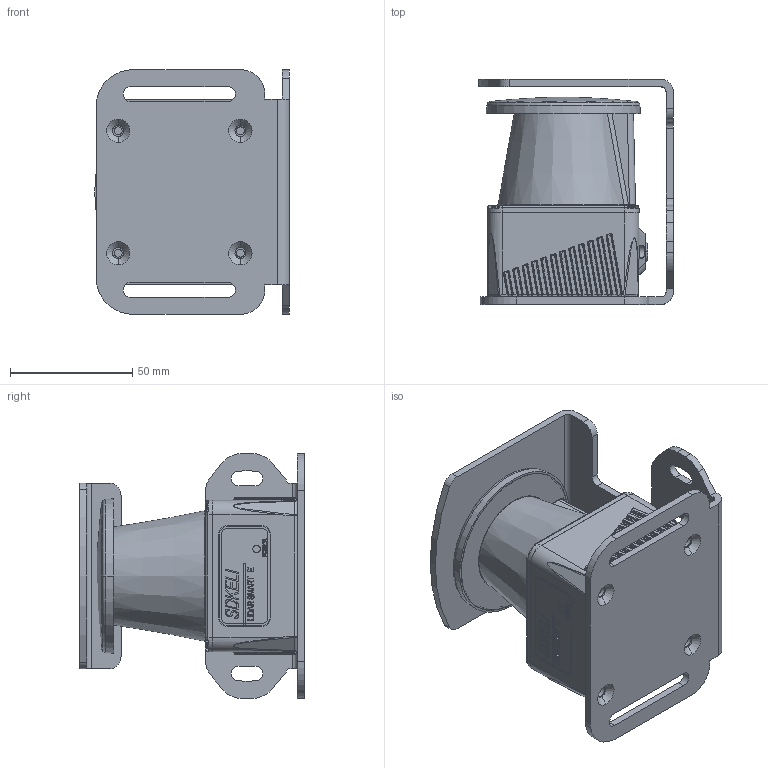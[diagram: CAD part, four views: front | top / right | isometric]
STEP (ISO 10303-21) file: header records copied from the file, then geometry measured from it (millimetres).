
FILE_DESCRIPTION((''),'2;1');
FILE_NAME('LSE-FZ-ASM_ASM','2026-04-07T09:59:38',('LENOVO'),(''),'CREO PARAMETRIC BY PTC INC, 2023073','CREO PARAMETRIC BY PTC INC, 2023073','');
FILE_SCHEMA(('CONFIG_CONTROL_DESIGN'));
Products named in the file (5): JSB-34C87966JXP1_1; JSB-34C87966JXP1_2; LS-ZJ-FZ; JSB-34C87966JXP1_ASM; LSE-FZ-ASM_ASM
Assembly tree (4 placements, depth 3):
  LSE-FZ-ASM_ASM
    JSB-34C87966JXP1_ASM
      JSB-34C87966JXP1_1
      JSB-34C87966JXP1_2
      LS-ZJ-FZ
Bounding box: 79.6 x 92 x 100 mm (x, y, z)
Volume: 114007.3 mm3; surface area: 100420.6 mm2
Topology: 2 solids, 9 shells, 2241 faces, 5913 edges, 3721 vertices
Faces by surface type: plane 837, cylinder 602, bspline 293, cone 186, torus 121, extrusion 120, sphere 82
Entity records: 80018 total; most frequent: CARTESIAN_POINT 27536, ORIENTED_EDGE 11655, DIRECTION 9805, EDGE_CURVE 5836, VERTEX_POINT 3721, AXIS2_PLACEMENT_3D 3450, VECTOR 2905, LINE 2785
